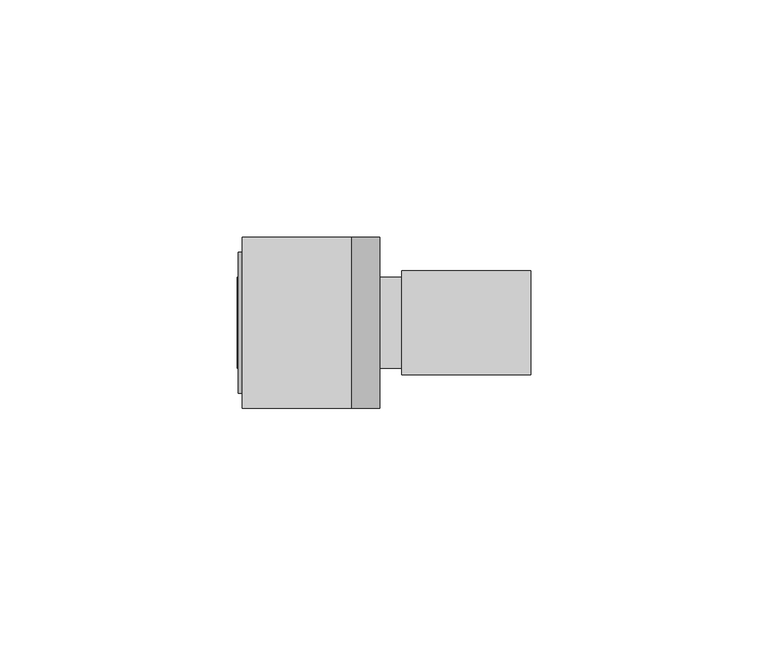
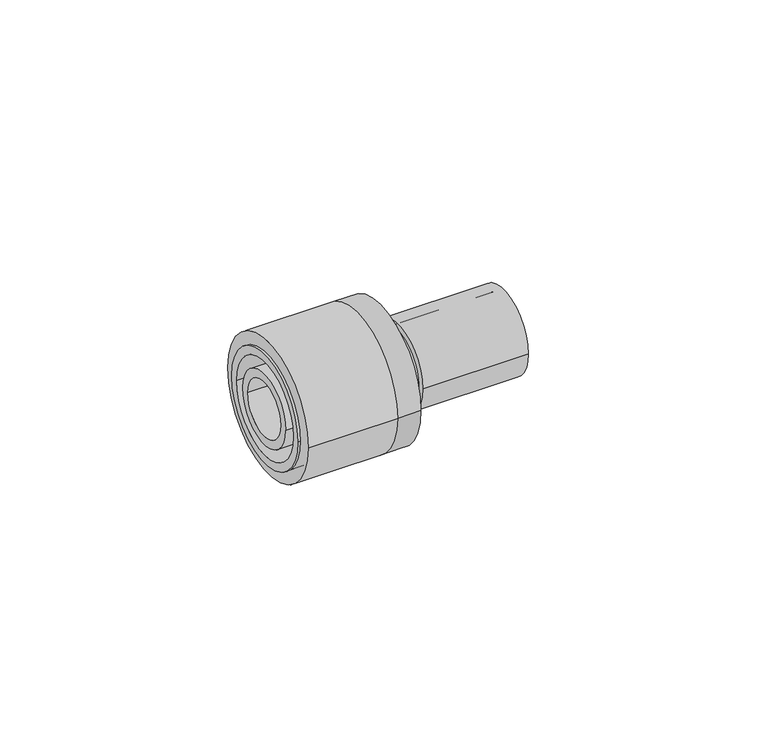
"""IFC4 building model written with IfcOpenShell, lengths in millimetres: pipe fitting geometry, FASTLOC Copper press adapter RX+ : FSL RX+ AT."""

import ifcopenshell
import ifcopenshell.guid

model = None  # the IFC model being written
_history = None  # IfcOwnerHistory: only IFC2X3 demands one
_inside = {}  # id of a spatial element -> (the spatial element, [elements in it])
_under = {}  # id of a project, library or spatial element -> (it, [spatial elements below it])
_declared = {}  # id of a project -> (the project, [libraries it declares])
_typed = {}  # id of a type object -> (the type object, [elements of that type])
_made_of = {}  # id of a material, layer set ... -> (it, [elements and type objects made of it])


def new_model(schema):
    """Start an empty IFC model of exactly this schema.

    Asked for "IFC4X3", IfcOpenShell would pick the latest addendum, in which some entities
    have other attributes; the version numbers below select the first issue.
    IFC2X3 requires an IfcOwnerHistory on every rooted entity: one is made here for all.
    """
    global model, _history
    if schema == "IFC4X3":
        model = ifcopenshell.file(schema_version=(4, 3, 0, 0))
    else:
        model = ifcopenshell.file(schema=schema)
    _inside.clear()
    _under.clear()
    _declared.clear()
    _typed.clear()
    _made_of.clear()
    _history = None
    if model.schema == "IFC2X3":
        org = make("IfcOrganization", Name="unknown")
        user = make(
            "IfcPersonAndOrganization",
            ThePerson=make("IfcPerson", FamilyName="unknown"),
            TheOrganization=org,
        )
        app = make(
            "IfcApplication",
            ApplicationDeveloper=org,
            Version="unknown",
            ApplicationFullName="unknown",
            ApplicationIdentifier="unknown",
        )
        _history = make(
            "IfcOwnerHistory",
            OwningUser=user,
            OwningApplication=app,
            ChangeAction="ADDED",
            CreationDate=0,
        )
    return model


def make(cls, **values):
    """One entity of the class cls with the attributes given. An attribute that is None is left unset."""
    return model.create_entity(
        cls, **{name: value for name, value in values.items() if value is not None}
    )


def rooted(cls, **values):
    """An entity with a GlobalId (a new one), such as an element, a storey or a relation."""
    return make(cls, GlobalId=ifcopenshell.guid.new(), OwnerHistory=_history, **values)


def si_unit(unit_type, name, prefix=None):
    """IfcSIUnit, for example si_unit("LENGTHUNIT", "METRE", prefix="MILLI")."""
    return make("IfcSIUnit", UnitType=unit_type, Prefix=prefix, Name=name)


def assignment(units):
    """IfcUnitAssignment: the units of a project."""
    return None if units is None else make("IfcUnitAssignment", Units=units)


def point(xyz):
    """IfcCartesianPoint."""
    return None if xyz is None else make("IfcCartesianPoint", Coordinates=xyz)


def direction(xyz):
    """IfcDirection."""
    return None if xyz is None else make("IfcDirection", DirectionRatios=xyz)


def frame(location, z_axis=None, x_axis=None):
    """IfcAxis2Placement3D, a coordinate frame: its origin and axes. An axis left out is left unset."""
    return make(
        "IfcAxis2Placement3D",
        Location=point(location),
        Axis=direction(z_axis),
        RefDirection=direction(x_axis),
    )


def frame_2d(location, x_axis=None):
    """IfcAxis2Placement2D, a coordinate frame in the plane: its origin and x axis."""
    return make(
        "IfcAxis2Placement2D", Location=point(location), RefDirection=direction(x_axis)
    )


def origin():
    """The frame at (0, 0, 0) with its axes left unset."""
    return frame((0.0, 0.0, 0.0))


def origin_2d():
    """The frame at (0, 0) in the plane with its x axis left unset."""
    return frame_2d((0.0, 0.0))


def place(relative_to, where):
    """IfcLocalPlacement: puts the frame where relative to a parent placement (None: the world)."""
    return make(
        "IfcLocalPlacement", PlacementRelTo=relative_to, RelativePlacement=where
    )


def context(
    kind, dimensions, precision=None, world=None, true_north=None, identifier=None
):
    """IfcGeometricRepresentationContext, for example the 3D "Model" context."""
    return make(
        "IfcGeometricRepresentationContext",
        ContextIdentifier=identifier,
        ContextType=kind,
        CoordinateSpaceDimension=dimensions,
        Precision=precision,
        WorldCoordinateSystem=world,
        TrueNorth=true_north,
    )


def project(units=None, contexts=None):
    """IfcProject with its units and contexts."""
    return rooted(
        "IfcProject",
        Name="project",
        RepresentationContexts=contexts,
        UnitsInContext=assignment(units),
    )


def spatial(cls, under=None, at=None, **own):
    """A site, building, storey or space (cls), placed at a placement, below another one or the project."""
    s = rooted(cls, ObjectPlacement=at, **own)
    if under is not None:
        _under.setdefault(under.id(), (under, []))[1].append(s)
    return s


def polyline(points):
    """IfcPolyline through the points."""
    return make("IfcPolyline", Points=[point(p) for p in points])


def circle_curve(where, radius):
    """IfcCircle in the frame where."""
    return make("IfcCircle", Position=where, Radius=radius)


def trimmed(basis, trim1, trim2, sense, master):
    """IfcTrimmedCurve: the piece of a basis curve between two trims."""
    return make(
        "IfcTrimmedCurve",
        BasisCurve=basis,
        Trim1=trim1,
        Trim2=trim2,
        SenseAgreement=sense,
        MasterRepresentation=master,
    )


def segment(curve, same_sense, transition):
    """IfcCompositeCurveSegment."""
    return make(
        "IfcCompositeCurveSegment",
        Transition=transition,
        SameSense=same_sense,
        ParentCurve=curve,
    )


def composite_curve(segments, self_intersect=None):
    """IfcCompositeCurve: segments joined end to end."""
    return make("IfcCompositeCurve", Segments=segments, SelfIntersect=self_intersect)


def outline(outer, holes=None, kind="AREA"):
    """IfcArbitraryClosedProfileDef: a profile drawn as a closed curve; with holes, ...WithVoids."""
    if holes is None:
        return make("IfcArbitraryClosedProfileDef", ProfileType=kind, OuterCurve=outer)
    return make(
        "IfcArbitraryProfileDefWithVoids",
        ProfileType=kind,
        OuterCurve=outer,
        InnerCurves=holes,
    )


def extrude(swept, where, along, depth):
    """IfcExtrudedAreaSolid: the profile swept, set in the frame where, extruded along a direction by depth."""
    return make(
        "IfcExtrudedAreaSolid",
        SweptArea=swept,
        Position=where,
        ExtrudedDirection=direction(along),
        Depth=depth,
    )


def shape(context_of_items, identifier, shape_type, items):
    """IfcShapeRepresentation: the items that make up one representation, for example the "Body"."""
    return make(
        "IfcShapeRepresentation",
        ContextOfItems=context_of_items,
        RepresentationIdentifier=identifier,
        RepresentationType=shape_type,
        Items=items,
    )


def source(mapping_origin, context_of_items, identifier, shape_type, items):
    """IfcRepresentationMap: a shape defined once, which mapped items show again and again."""
    return make(
        "IfcRepresentationMap",
        MappingOrigin=mapping_origin,
        MappedRepresentation=shape(context_of_items, identifier, shape_type, items),
    )


def transform(
    local_origin,
    x_axis=None,
    y_axis=None,
    z_axis=None,
    scale=None,
    scale2=None,
    scale3=None,
    uniform=True,
):
    """IfcCartesianTransformationOperator3D, or its non-uniform kind. x_axis, y_axis, z_axis: its Axis1, 2, 3."""
    if uniform:
        return make(
            "IfcCartesianTransformationOperator3D",
            Axis1=direction(x_axis),
            Axis2=direction(y_axis),
            LocalOrigin=point(local_origin),
            Scale=scale,
            Axis3=direction(z_axis),
        )
    return make(
        "IfcCartesianTransformationOperator3DnonUniform",
        Axis1=direction(x_axis),
        Axis2=direction(y_axis),
        LocalOrigin=point(local_origin),
        Scale=scale,
        Axis3=direction(z_axis),
        Scale2=scale2,
        Scale3=scale3,
    )


def mapped(mapping_source, mapping_target):
    """IfcMappedItem: shows the shape of a source again, moved by a transform."""
    return make(
        "IfcMappedItem", MappingSource=mapping_source, MappingTarget=mapping_target
    )


def made_of(thing, what):
    """Note that an element or type object is made of a material, layer set ...; save() writes the relation."""
    if what is not None:
        _made_of.setdefault(what.id(), (what, []))[1].append(thing)
    return thing


def element(
    cls,
    number,
    at=None,
    inside=None,
    cuts=None,
    type_object=None,
    material=None,
    context=None,
    identifier="Body",
    shape_type=None,
    held_by="IfcProductDefinitionShape",
    body=None,
    shapes=None,
    **own,
):
    """One element of the class cls, such as IfcWall. Its Tag is "e" and its number.

    at: its placement. inside: the storey or other place that contains it. cuts: it is an
    opening in that element (IfcRelVoidsElement). A single representation is given by context,
    identifier, shape_type and body (its items); several are given by shapes. held_by: the class
    of the entity that holds the representations. save() writes the other relations.
    """
    e = rooted(cls, Tag="e%d" % number, ObjectPlacement=at, **own)
    if body is not None:
        shapes = [shape(context, identifier, shape_type, body)]
    if shapes is not None:
        e.Representation = make(held_by, Representations=shapes)
    if inside is not None:
        _inside.setdefault(inside.id(), (inside, []))[1].append(e)
    if cuts is not None:
        rooted(
            "IfcRelVoidsElement", RelatingBuildingElement=cuts, RelatedOpeningElement=e
        )
    if type_object is not None:
        _typed.setdefault(type_object.id(), (type_object, []))[1].append(e)
    return made_of(e, material)


def aggregate(whole, parts):
    """IfcRelAggregates: a whole, such as a stair, and the parts it consists of."""
    return rooted("IfcRelAggregates", RelatingObject=whole, RelatedObjects=parts)


def save(model, path):
    """Write the relations noted so far, then the file.

    IfcRelAggregates (storeys below a building ...), IfcRelContainedInSpatialStructure (elements
    in a storey), IfcRelDefinesByType, IfcRelAssociatesMaterial and IfcRelDeclares: one each for
    every whole, place, type object, material and project.
    """
    for whole, parts in _under.values():
        aggregate(whole, parts)
    for where, things in _inside.values():
        rooted(
            "IfcRelContainedInSpatialStructure",
            RelatedElements=things,
            RelatingStructure=where,
        )
    for kind, things in _typed.values():
        rooted("IfcRelDefinesByType", RelatedObjects=things, RelatingType=kind)
    for what, things in _made_of.values():
        rooted("IfcRelAssociatesMaterial", RelatedObjects=things, RelatingMaterial=what)
    for by, libraries in _declared.values():
        rooted("IfcRelDeclares", RelatingContext=by, RelatedDefinitions=libraries)
    model.write(path)


def plane_surface(at):
    """IfcPlane: the flat surface through the origin of the frame at, square to its z axis."""
    return make("IfcPlane", Position=at)


def cylinder_surface(at, radius):
    """IfcCylindricalSurface: all points at the distance radius from the z axis of the frame at."""
    return make("IfcCylindricalSurface", Position=at, Radius=radius)


def revolved_surface(curve, axis_point, axis_direction):
    """IfcSurfaceOfRevolution: the curve turned about the line through axis_point along axis_direction."""
    return make(
        "IfcSurfaceOfRevolution",
        SweptCurve=make("IfcArbitraryOpenProfileDef", ProfileType="CURVE", Curve=curve),
        AxisPosition=make("IfcAxis1Placement", Location=point(axis_point), Axis=direction(axis_direction)),
    )


def advanced_brep(points, edges, surfaces, faces):
    """IfcAdvancedBrep: a solid bounded by faces that lie on surfaces and meet in shared edges.

    An edge is (start, end): straight between two places in points (the first is 0);
    or (start, end, curve); or (start, end, curve, False) where it runs against its curve.
    A face is (place in surfaces, loops), or (place, loops, False) where it looks against
    its surface's normal. A loop lists edges by number (the first is 1), with a minus sign
    where the edge is run from its end to its start. The first loop is the outer one.
    """
    corners = [point(p) for p in points]
    vertices = [make("IfcVertexPoint", VertexGeometry=c) for c in corners]
    made = []
    for start, end, *more in edges:
        made.append(
            make(
                "IfcEdgeCurve",
                EdgeStart=vertices[start],
                EdgeEnd=vertices[end],
                EdgeGeometry=more[0] if more else make("IfcPolyline", Points=[corners[start], corners[end]]),
                SameSense=more[1] if len(more) > 1 else True,
            )
        )
    hull = []
    for where, loops, *sense in faces:
        bounds = []
        for j, loop in enumerate(loops):
            ring = [make("IfcOrientedEdge", EdgeElement=made[abs(k) - 1], Orientation=k > 0) for k in loop]
            bounds.append(
                make(
                    "IfcFaceOuterBound" if j == 0 else "IfcFaceBound",
                    Bound=make("IfcEdgeLoop", EdgeList=ring),
                    Orientation=True,
                )
            )
        hull.append(make("IfcAdvancedFace", Bounds=bounds, FaceSurface=surfaces[where], SameSense=sense[0] if sense else True))
    return make("IfcAdvancedBrep", Outer=make("IfcClosedShell", CfsFaces=hull))


def pipe_fitting_15655edc(model_context):
    return source(origin(), model_context, "Body", "SolidModel", [
        extrude(outline(composite_curve([segment(trimmed(circle_curve(origin_2d(), 18.0), [point((18.0, 0.0))], [point((-18.0, 0.0))], False, "CARTESIAN"), True, "CONTINUOUS"), segment(trimmed(circle_curve(origin_2d(), 18.0), [point((-18.0, 0.0))], [point((18.0, 0.0))], False, "CARTESIAN"), True, "CONTINUOUS")], self_intersect=False), holes=[composite_curve([segment(trimmed(circle_curve(origin_2d(), 13.5), [point((13.5, 0.0))], [point((-13.5, 0.0))], True, "CARTESIAN"), True, "CONTINUOUS"), segment(trimmed(circle_curve(origin_2d(), 13.5), [point((-13.5, 0.0))], [point((13.5, 0.0))], True, "CARTESIAN"), True, "CONTINUOUS")], self_intersect=False)]), frame((-33.6, 0.0, 0.0), z_axis=(1.0, 0.0, 0.0), x_axis=(0.0, 1.0, 0.0)), (0.0, 0.0, 1.0), 23.0),
        advanced_brep(
        [(-10.6, -18.0, 0.0), (-10.6, 18.0, 0.0), (-4.6, 18.0, 0.0), (-4.6, -18.0, 0.0), (-34.4, -14.85, 0.0), (-34.4, 14.85, 0.0), (-10.6, 14.85, 0.0), (-10.6, -14.85, 0.0), (-4.6, -12.65, 0.0), (-4.6, 12.65, 0.0), (-34.4, 12.65, 0.0), (-34.4, -12.65, 0.0)],
        [
            (0, 1, circle_curve(frame((-10.6, 0.0, 0.0), z_axis=(1.0, 0.0, 0.0), x_axis=(0.0, 1.0, 0.0)), 18.0)),
            (1, 2),
            (2, 3, circle_curve(frame((-4.6, 0.0, 0.0), z_axis=(-1.0, 0.0, 0.0), x_axis=(0.0, 1.0, 0.0)), 18.0)),
            (3, 0),
            (4, 5, circle_curve(frame((-34.4, 0.0, 0.0), z_axis=(1.0, 0.0, 0.0), x_axis=(0.0, 1.0, 0.0)), 14.85)),
            (5, 6),
            (6, 7, circle_curve(frame((-10.6, 0.0, 0.0), z_axis=(-1.0, 0.0, 0.0), x_axis=(0.0, 1.0, 0.0)), 14.85)),
            (7, 4),
            (8, 9, circle_curve(frame((-4.6, 0.0, 0.0), z_axis=(1.0, 0.0, 0.0), x_axis=(0.0, 1.0, 0.0)), 12.65)),
            (9, 10),
            (10, 11, circle_curve(frame((-34.4, 0.0, 0.0), z_axis=(-1.0, 0.0, 0.0), x_axis=(0.0, 1.0, 0.0)), 12.65)),
            (11, 8),
            (1, 0, circle_curve(frame((-10.6, 0.0, 0.0), z_axis=(1.0, 0.0, 0.0), x_axis=(0.0, -1.0, 0.0)), 18.0)),
            (3, 2, circle_curve(frame((-4.6, 0.0, 0.0), z_axis=(-1.0, 0.0, 0.0), x_axis=(0.0, -1.0, 0.0)), 18.0)),
            (6, 7, circle_curve(frame((-10.6, 0.0, 0.0), z_axis=(1.0, 0.0, 0.0), x_axis=(0.0, -1.0, 0.0)), 14.85)),
            (5, 4, circle_curve(frame((-34.4, 0.0, 0.0), z_axis=(1.0, 0.0, 0.0), x_axis=(0.0, -1.0, 0.0)), 14.85)),
            (10, 11, circle_curve(frame((-34.4, 0.0, 0.0), z_axis=(1.0, 0.0, 0.0), x_axis=(0.0, -1.0, 0.0)), 12.65)),
            (9, 8, circle_curve(frame((-4.6, 0.0, 0.0), z_axis=(1.0, 0.0, 0.0), x_axis=(0.0, -1.0, 0.0)), 12.65)),
        ],
        [
            cylinder_surface(frame((-4.6, 0.0, 0.0), z_axis=(-1.0, 0.0, 0.0), x_axis=(0.0, 1.0, 0.0)), 18.0),
            cylinder_surface(frame((-4.6, 0.0, 0.0), z_axis=(-1.0, 0.0, 0.0), x_axis=(0.0, 1.0, 0.0)), 14.85),
            revolved_surface(polyline([(-34.4, 12.65, 0.0), (-4.6, 12.65, 0.0)]), (-4.6, 0.0, 0.0), (-1.0, 0.0, 0.0)),
            cylinder_surface(frame((-4.6, 0.0, 0.0), z_axis=(-1.0, 0.0, 0.0), x_axis=(0.0, -1.0, 0.0)), 18.0),
            plane_surface(frame((-10.6, 0.0, 0.0), z_axis=(-1.0, 0.0, 0.0), x_axis=(0.0, -1.0, 0.0))),
            cylinder_surface(frame((-4.6, 0.0, 0.0), z_axis=(-1.0, 0.0, 0.0), x_axis=(0.0, -1.0, 0.0)), 14.85),
            plane_surface(frame((-34.4, 0.0, 0.0), z_axis=(-1.0, 0.0, 0.0), x_axis=(0.0, -1.0, 0.0))),
            revolved_surface(polyline([(-34.4, -12.65, 0.0), (-4.6, -12.65, 0.0)]), (-4.6, 0.0, 0.0), (-1.0, 0.0, 0.0)),
            plane_surface(frame((-4.6, 0.0, 0.0), z_axis=(1.0, 0.0, 0.0), x_axis=(0.0, -1.0, 0.0))),
        ],
        [
            (0, [[1, 2, 3, 4]]),
            (1, [[5, 6, 7, 8]]),
            (2, [[9, 10, 11, 12]]),
            (3, [[13, -4, 14, -2]]),
            (4, [[-13, -1], [15, -7]]),
            (5, [[16, -8, -15, -6]]),
            (6, [[-16, -5], [17, -11]]),
            (7, [[18, -12, -17, -10]]),
            (8, [[-14, -3], [-18, -9]]),
        ],
    ),
        extrude(outline(composite_curve([segment(trimmed(circle_curve(origin_2d(), 11.0), [point((-11.0, 0.0))], [point((11.0, 0.0))], False, "CARTESIAN"), True, "CONTINUOUS"), segment(trimmed(circle_curve(origin_2d(), 11.0), [point((11.0, 0.0))], [point((-11.0, 0.0))], False, "CARTESIAN"), True, "CONTINUOUS")], self_intersect=False), holes=[composite_curve([segment(trimmed(circle_curve(origin_2d(), 8.75), [point((-8.75, 0.0))], [point((8.75, 0.0))], True, "CARTESIAN"), True, "CONTINUOUS"), segment(trimmed(circle_curve(origin_2d(), 8.75), [point((8.75, 0.0))], [point((-8.75, 0.0))], True, "CARTESIAN"), True, "CONTINUOUS")], self_intersect=False)]), frame((0.0, 0.0, 0.0), z_axis=(1.0, 0.0, 0.0), x_axis=(0.0, 1.0, 0.0)), (0.0, 0.0, 1.0), 27.2),
        advanced_brep(
        [(-10.6, 9.6, 0.0), (-10.6, -9.6, 0.0), (-34.6, -9.6, 0.0), (-34.6, 9.6, 0.0), (-7.8, 11.1, 0.0), (-7.8, -11.1, 0.0), (-10.6, -11.1, 0.0), (-10.6, 11.1, 0.0), (0.0, 9.6, 0.0), (0.0, -9.6, 0.0), (-7.8, -9.6, 0.0), (-7.8, 9.6, 0.0), (-34.6, 7.35, 0.0), (-34.6, -7.35, 0.0), (0.0, -7.35, 0.0), (0.0, 7.35, 0.0)],
        [
            (0, 1, circle_curve(frame((-10.6, 0.0, 0.0), z_axis=(-1.0, 0.0, 0.0), x_axis=(0.0, -1.0, 0.0)), 9.6)),
            (1, 2),
            (2, 3, circle_curve(frame((-34.6, 0.0, 0.0), z_axis=(1.0, 0.0, 0.0), x_axis=(0.0, -1.0, 0.0)), 9.6)),
            (3, 0),
            (4, 5, circle_curve(frame((-7.8, 0.0, 0.0), z_axis=(-1.0, 0.0, 0.0), x_axis=(0.0, -1.0, 0.0)), 11.1)),
            (5, 6),
            (6, 7, circle_curve(frame((-10.6, 0.0, 0.0), z_axis=(1.0, 0.0, 0.0), x_axis=(0.0, -1.0, 0.0)), 11.1)),
            (7, 4),
            (8, 9, circle_curve(frame((0.0, 0.0, 0.0), z_axis=(-1.0, 0.0, 0.0), x_axis=(0.0, -1.0, 0.0)), 9.6)),
            (9, 10),
            (10, 11, circle_curve(frame((-7.8, 0.0, 0.0), z_axis=(1.0, 0.0, 0.0), x_axis=(0.0, -1.0, 0.0)), 9.6)),
            (11, 8),
            (12, 13, circle_curve(frame((-34.6, 0.0, 0.0), z_axis=(-1.0, 0.0, 0.0), x_axis=(0.0, -1.0, 0.0)), 7.35)),
            (13, 14),
            (14, 15, circle_curve(frame((0.0, 0.0, 0.0), z_axis=(1.0, 0.0, 0.0), x_axis=(0.0, -1.0, 0.0)), 7.35)),
            (15, 12),
            (2, 3, circle_curve(frame((-34.6, 0.0, 0.0), z_axis=(-1.0, 0.0, 0.0), x_axis=(0.0, 1.0, 0.0)), 9.6)),
            (12, 13, circle_curve(frame((-34.6, 0.0, 0.0), z_axis=(1.0, 0.0, 0.0), x_axis=(0.0, 1.0, 0.0)), 7.35)),
            (1, 0, circle_curve(frame((-10.6, 0.0, 0.0), z_axis=(-1.0, 0.0, 0.0), x_axis=(0.0, 1.0, 0.0)), 9.6)),
            (6, 7, circle_curve(frame((-10.6, 0.0, 0.0), z_axis=(-1.0, 0.0, 0.0), x_axis=(0.0, 1.0, 0.0)), 11.1)),
            (5, 4, circle_curve(frame((-7.8, 0.0, 0.0), z_axis=(-1.0, 0.0, 0.0), x_axis=(0.0, 1.0, 0.0)), 11.1)),
            (10, 11, circle_curve(frame((-7.8, 0.0, 0.0), z_axis=(-1.0, 0.0, 0.0), x_axis=(0.0, 1.0, 0.0)), 9.6)),
            (9, 8, circle_curve(frame((0.0, 0.0, 0.0), z_axis=(-1.0, 0.0, 0.0), x_axis=(0.0, 1.0, 0.0)), 9.6)),
            (14, 15, circle_curve(frame((0.0, 0.0, 0.0), z_axis=(-1.0, 0.0, 0.0), x_axis=(0.0, 1.0, 0.0)), 7.35)),
        ],
        [
            cylinder_surface(frame((0.0, 0.0, 0.0), z_axis=(1.0, 0.0, 0.0), x_axis=(0.0, -1.0, 0.0)), 9.6),
            cylinder_surface(frame((0.0, 0.0, 0.0), z_axis=(1.0, 0.0, 0.0), x_axis=(0.0, -1.0, 0.0)), 11.1),
            revolved_surface(polyline([(0.0, -7.35, 0.0), (-34.6, -7.35, 0.0)]), (0.0, 0.0, 0.0), (1.0, 0.0, 0.0)),
            plane_surface(frame((-34.6, 0.0, 0.0), z_axis=(-1.0, 0.0, 0.0), x_axis=(0.0, 1.0, 0.0))),
            cylinder_surface(frame((0.0, 0.0, 0.0), z_axis=(1.0, 0.0, 0.0), x_axis=(0.0, 1.0, 0.0)), 9.6),
            plane_surface(frame((-10.6, 0.0, 0.0), z_axis=(-1.0, 0.0, 0.0), x_axis=(0.0, 1.0, 0.0))),
            cylinder_surface(frame((0.0, 0.0, 0.0), z_axis=(1.0, 0.0, 0.0), x_axis=(0.0, 1.0, 0.0)), 11.1),
            plane_surface(frame((-7.8, 0.0, 0.0), z_axis=(1.0, 0.0, 0.0), x_axis=(0.0, 1.0, 0.0))),
            plane_surface(frame((0.0, 0.0, 0.0), z_axis=(1.0, 0.0, 0.0), x_axis=(0.0, 1.0, 0.0))),
            revolved_surface(polyline([(0.0, 7.35, 0.0), (-34.6, 7.35, 0.0)]), (0.0, 0.0, 0.0), (1.0, 0.0, 0.0)),
        ],
        [
            (0, [[1, 2, 3, 4]]),
            (1, [[5, 6, 7, 8]]),
            (0, [[9, 10, 11, 12]]),
            (2, [[13, 14, 15, 16]]),
            (3, [[17, -3], [18, -13]]),
            (4, [[19, -4, -17, -2]]),
            (5, [[20, -7], [-19, -1]]),
            (6, [[21, -8, -20, -6]]),
            (7, [[-21, -5], [22, -11]]),
            (4, [[23, -12, -22, -10]]),
            (8, [[-23, -9], [24, -15]]),
            (9, [[-18, -16, -24, -14]]),
        ],
    ),
    ])


if __name__ == "__main__":
    model = new_model("IFC4")
    model_context = context("Model", 3, world=origin())
    ifc_project = project(units=[si_unit("LENGTHUNIT", "METRE", prefix="MILLI")], contexts=[model_context])
    site = spatial("IfcSite", under=ifc_project)
    building = spatial("IfcBuilding", under=site)
    placement = place(None, origin())
    pipe_fitting_shape = pipe_fitting_15655edc(model_context)
    element("IfcPipeFitting", 1, ObjectType="FASTLOC Copper press adapter RX+ : FSL RX+ AT", at=placement, inside=building, context=model_context, shape_type="MappedRepresentation", body=[
        mapped(pipe_fitting_shape, transform((0.0, 0.0, 0.0), x_axis=(1.0, 0.0, 0.0), y_axis=(0.0, 1.0, 0.0), z_axis=(0.0, 0.0, 1.0))),
    ])
    save(model, "model.ifc")
